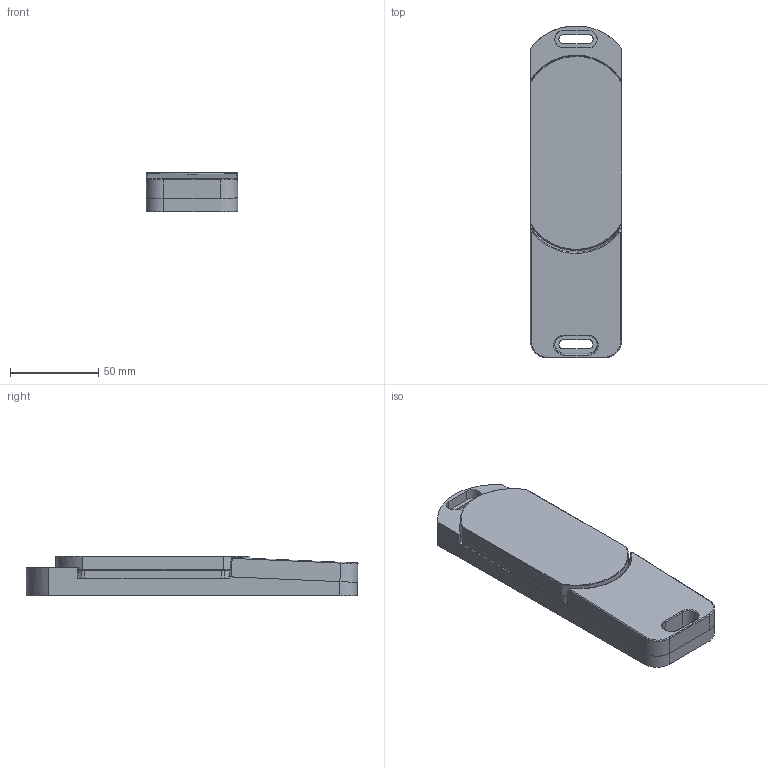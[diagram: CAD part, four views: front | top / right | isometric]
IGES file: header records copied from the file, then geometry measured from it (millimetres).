
Global section: file name: 2009855_B_PSEN_sl_10_Betätiger,; native system: Autodesk Inventor 2017; preprocessor: unknown; author: prim; date: 20180710.103732; units: millimetre
Bounding box: 52.01 x 188.23 x 22.5 mm (x, y, z)
Volume: 192343.5 mm3; surface area: 32905.7 mm2
Topology: 1 solids, 1 shells, 162 faces, 419 edges, 274 vertices
Faces by surface type: bspline 162
